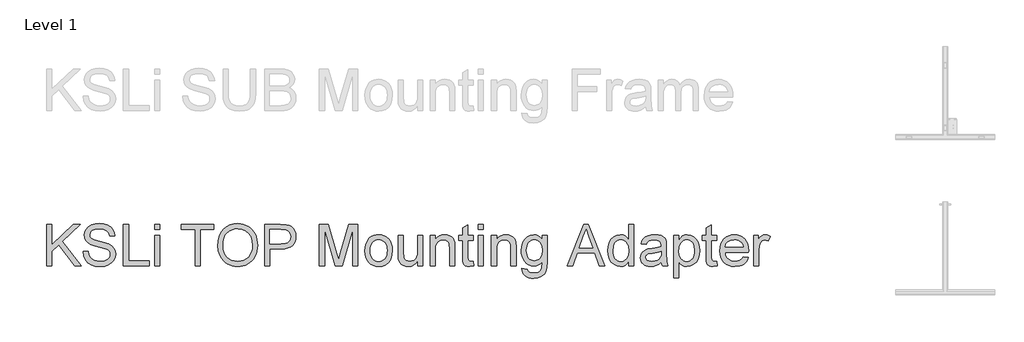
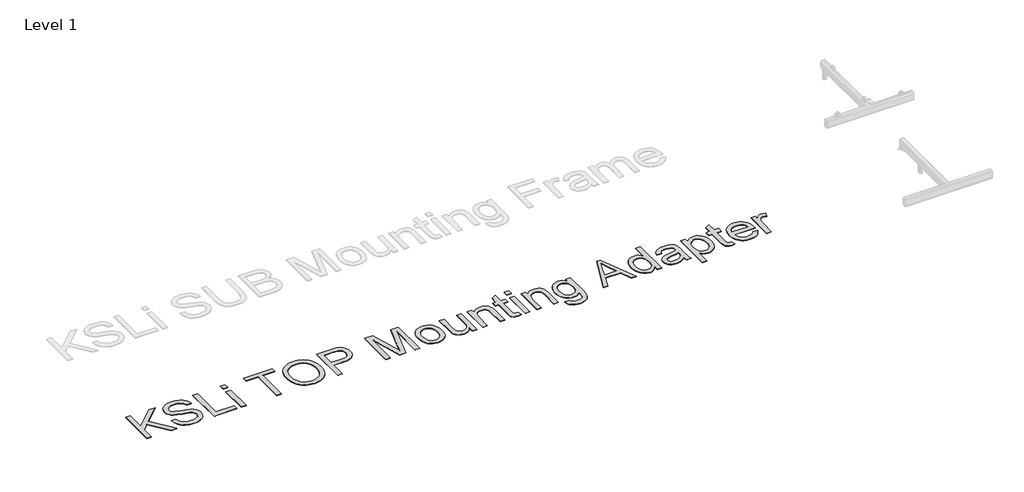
# One storey, part 32 of 52: 1 proxy.
"""IFC4 building model written with IfcOpenShell, lengths in millimetres."""

from ifc_helpers import new_model, si_unit, origin, origin_with_axes, place, context, project, spatial, polyline, outline, extrude, element, save

model = new_model("IFC4")

# Units and contexts
model_context = context("Model", 3, world=origin())
ifc_project = project(units=[si_unit("LENGTHUNIT", "METRE", prefix="MILLI")], contexts=[model_context])

# Site, building, storey
site = spatial("IfcSite", under=ifc_project)
building = spatial("IfcBuilding", under=site)
storey = spatial("IfcBuildingStorey", under=building, Name="Level 1", Elevation=0.0)

# Proxy
placement = place(None, origin())
element("IfcBuildingElementProxy", 1, Name="400mm Arial", ObjectType="400mm Arial", at=placement, inside=storey, context=model_context, shape_type="SweptSolid", body=[
    extrude(outline(polyline([(8048.9284942, -55256.6859046), (8048.9284942, -54854.860664), (8099.1566493, -54854.860664), (8099.1566493, -55051.554904), (8305.1705666, -54854.860664), (8375.4115022, -54854.860664), (8202.4579136, -55020.0642053), (8381.6900216, -55256.6859046), (8320.2782539, -55256.6859046), (8166.8469364, -55054.0074507), (8099.1566493, -55118.5584781), (8099.1566493, -55256.6859046), (8048.9284942, -55256.6859046)])), origin_with_axes(), (0.0, 0.0, 1.0), 5.0),
    extrude(outline(polyline([(8400.5255798, -55118.5584781), (8450.7537348, -55118.5584781), (8456.5172194, -55146.4316706), (8466.9405426, -55168.8356841), (8483.2009268, -55186.6166472), (8506.4755944, -55200.6206885), (8534.9251353, -55209.7073738), (8566.7101397, -55212.7362689), (8594.6936968, -55210.4431378), (8619.1946377, -55203.5637445), (8639.0480027, -55192.6744374), (8653.0888322, -55178.3515651), (8661.4397535, -55161.9072399), (8664.2233939, -55144.6535743), (8662.1387293, -55127.8413671), (8655.8847354, -55113.3100283), (8643.1805438, -55100.9124051), (8621.7452862, -55090.5013446), (8548.6103456, -55071.3224299), (8500.6017452, -55058.6305011), (8469.8835986, -55046.5517089), (8444.8798857, -55029.6536626), (8427.1602362, -55009.1748982), (8416.602023, -54985.5568741), (8413.0826185, -54959.2410487), (8417.4358888, -54929.8227518), (8430.4956996, -54902.3910177), (8451.9186945, -54879.1408756), (8481.3615168, -54862.2673548), (8516.7027138, -54852.0034471), (8555.8208327, -54848.5821446), (8598.2008385, -54852.1628627), (8635.2833436, -54862.9050169), (8665.7439728, -54880.5878782), (8688.2583509, -54904.9907172), (8702.5076469, -54934.592955), (8708.1730296, -54967.8740129), (8657.9448745, -54967.8740129), (8648.7232992, -54937.903893), (8640.3601152, -54926.04583), (8629.4953336, -54916.2724317), (8599.4516373, -54903.1758327), (8557.78287, -54898.8102996), (8515.133084, -54903.1267817), (8498.8297802, -54908.5223843), (8485.8742027, -54916.076228), (8468.9516309, -54935.1325153), (8463.3107736, -54957.7695207), (8467.3084246, -54977.0710628), (8479.3013777, -54992.595683), (8507.6528168, -55006.4770969), (8561.3145371, -55020.6528165), (8616.6930401, -55034.1172975), (8650.1948272, -55045.8649959), (8678.8283091, -55064.0874173), (8698.8043015, -55086.57727), (8710.5397371, -55113.0892991), (8714.451549, -55143.37825), (8709.9511259, -55174.3416513), (8696.4498567, -55203.4656426), (8674.4995643, -55228.5306692), (8644.6520718, -55247.3171764), (8608.7590518, -55259.0526121), (8568.672177, -55262.9644239), (8519.4618288, -55258.7460437), (8478.9580211, -55246.0909031), (8446.6947702, -55224.9499511), (8422.206092, -55195.2741368), (8406.4852681, -55159.1235994), (8400.5255798, -55118.5584781)])), origin_with_axes(), (0.0, 0.0, 1.0), 5.0),
    extrude(outline(polyline([(8789.7937816, -55256.6859046), (8789.7937816, -54854.860664), (8840.0219367, -54854.860664), (8840.0219367, -55206.4577495), (9040.934557, -55206.4577495), (9040.934557, -55256.6859046), (8789.7937816, -55256.6859046)])), origin_with_axes(), (0.0, 0.0, 1.0), 5.0),
    extrude(outline(polyline([(9091.162712, -54905.088819), (9091.162712, -54854.860664), (9141.3908671, -54854.860664), (9141.3908671, -54905.088819), (9091.162712, -54905.088819)])), origin_with_axes(), (0.0, 0.0, 1.0), 5.0),
    extrude(outline(polyline([(9091.162712, -55256.6859046), (9091.162712, -54961.5954935), (9141.3908671, -54961.5954935), (9141.3908671, -55256.6859046), (9091.162712, -55256.6859046)])), origin_with_axes(), (0.0, 0.0, 1.0), 5.0),
    extrude(outline(polyline([(9480.4309139, -55256.6859046), (9480.4309139, -54905.088819), (9348.5820068, -54905.088819), (9348.5820068, -54854.860664), (9662.507976, -54854.860664), (9662.507976, -54905.088819), (9530.659069, -54905.088819), (9530.659069, -55256.6859046), (9480.4309139, -55256.6859046)])), origin_with_axes(), (0.0, 0.0, 1.0), 5.0),
    extrude(outline(polyline([(9700.1790923, -55061.070785), (9703.5268185, -55013.93897), (9713.569997, -54972.2150204), (9730.3086277, -54935.8989361), (9753.7427108, -54904.9907172), (9782.4681633, -54880.3119667), (9815.0809022, -54862.6842877), (9851.5809274, -54852.1076804), (9891.9682391, -54848.5821446), (9919.0014344, -54850.2376136), (9944.6734663, -54855.2040205), (9968.9843348, -54863.4813654), (9991.93404, -54875.0696482), (10012.8787882, -54889.6193811), (10031.1747861, -54906.7810762), (10046.8220337, -54926.5547335), (10059.8205308, -54948.9403529), (10070.0353875, -54973.429031), (10077.3317138, -54999.5118645), (10083.1687748, -55056.4599973), (10081.6328674, -55086.1174175), (10077.0251455, -55114.1684196), (10069.3456088, -55140.6130037), (10058.5942575, -55165.4511698), (10045.0255432, -55188.0268615), (10028.8939178, -55207.6840228), (10010.199381, -55224.4226536), (9988.9419331, -55238.2427539), (9965.9585054, -55249.0584845), (9942.0860296, -55256.7840064), (9917.3245057, -55261.4193196), (9891.6739336, -55262.9644239), (9864.168623, -55261.2568383), (9838.159366, -55256.1340816), (9813.6461624, -55247.5961536), (9790.6290122, -55235.6430544), (9769.7087894, -55220.7377023), (9751.4863679, -55203.3430153), (9735.9617477, -55183.4589934), (9723.1349288, -55161.0856367), (9705.9180515, -55112.4638997), (9700.1790923, -55061.070785)]), holes=[polyline([(9750.4072474, -55061.5612943), (9752.918042, -55094.8607462), (9760.4504259, -55124.4200646), (9773.004399, -55150.2392493), (9790.5799613, -55172.3183003), (9811.9447081, -55190.0011616), (9835.8662349, -55202.6317767), (9862.3445415, -55210.2101458), (9891.379628, -55212.7362689), (9920.9113551, -55210.1856204), (9947.7023614, -55202.5336749), (9971.7526469, -55189.7804324), (9993.0622114, -55171.9258929), (10010.509015, -55149.3808579), (10022.9710176, -55122.5561291), (10030.4482192, -55091.4517064), (10032.9406197, -55056.0675899), (10028.6731886, -55011.6029194), (10015.8708951, -54973.1715136), (9994.8648332, -54941.7421285), (9965.9860966, -54918.2835199), (9931.1476716, -54903.6786047), (9892.2625447, -54898.8102996), (9864.2360681, -54901.1555474), (9838.2329424, -54908.1912905), (9814.2531677, -54919.9175291), (9792.2967439, -54936.3342632), (9773.9700892, -54958.2324389), (9760.8796215, -54986.4030027), (9753.0253409, -55020.8459545), (9750.4072474, -55061.5612943)])]), origin_with_axes(), (0.0, 0.0, 1.0), 5.0),
    extrude(outline(polyline([(10152.232488, -55256.6859046), (10152.232488, -54854.860664), (10301.1511197, -54854.860664), (10361.1894613, -54858.6866367), (10387.9590078, -54865.8358101), (10409.9951393, -54877.4731439), (10427.7393142, -54894.1259356), (10441.6329909, -54916.3214826), (10450.6093116, -54942.5024179), (10453.6014185, -54971.1113744), (10451.5811332, -54995.7778622), (10445.5202773, -55018.4700499), (10435.4188508, -55039.1879376), (10421.2768538, -55057.9315253), (10401.8618815, -55073.4684082), (10375.9415293, -55084.5661817), (10343.5157971, -55091.2248459), (10304.5846849, -55093.4444006), (10202.4606431, -55093.4444006), (10202.4606431, -55256.6859046), (10152.232488, -55256.6859046)]), holes=[polyline([(10202.4606431, -55043.2162455), (10307.5277409, -55043.2162455), (10352.0659878, -55038.6054578), (10368.6697285, -55032.8419732), (10381.4965474, -55024.7730948), (10391.0676106, -55014.6134204), (10397.9040844, -55002.5775478), (10403.3732634, -54972.877208), (10400.1481646, -54950.313779), (10390.4728681, -54931.2820171), (10375.5491218, -54916.9591447), (10356.5786736, -54908.5223843), (10306.3505185, -54905.088819), (10202.4606431, -54905.088819), (10202.4606431, -55043.2162455)])]), origin_with_axes(), (0.0, 0.0, 1.0), 5.0),
    extrude(outline(polyline([(10679.6281163, -55256.6859046), (10679.6281163, -54854.860664), (10766.0558597, -54854.860664), (10848.2652229, -55138.0807493), (10864.8444381, -55197.2361741), (10882.7970795, -55133.175656), (10963.6330166, -54854.860664), (11050.06076, -54854.860664), (11050.06076, -55256.6859046), (10999.8326049, -55256.6859046), (10999.8326049, -54905.088819), (10898.8857854, -55256.6859046), (10830.8030908, -55256.6859046), (10729.8562714, -54905.088819), (10729.8562714, -55256.6859046), (10679.6281163, -55256.6859046)])), origin_with_axes(), (0.0, 0.0, 1.0), 5.0),
    extrude(outline(polyline([(11119.1244732, -55109.140699), (11121.8406686, -55070.9238911), (11129.9892548, -55037.9923212), (11143.5702318, -55010.3459892), (11162.5835996, -54987.9848953), (11181.725726, -54973.6926798), (11202.8544153, -54963.4839544), (11225.9696673, -54957.3587192), (11251.0714821, -54955.3169741), (11278.7821934, -54957.8032433), (11303.838023, -54965.2620507), (11326.2389708, -54977.6933965), (11345.9850369, -54995.0972805), (11362.101334, -55016.8850917), (11373.6129747, -55042.4682188), (11380.5199592, -55071.8466618), (11382.8222873, -55105.0204207), (11378.7510599, -55155.7636105), (11366.5373777, -55194.39122), (11346.5368599, -55223.3190076), (11319.1051258, -55244.9627316), (11286.5230437, -55258.4640009), (11251.0714821, -55262.9644239), (11222.9561006, -55260.4873518), (11197.6672792, -55253.0561355), (11175.2050177, -55240.670775), (11155.5693162, -55223.3312703), (11139.6246974, -55201.331927), (11128.2356839, -55174.9670507), (11121.4022759, -55144.2366414), (11119.1244732, -55109.140699)]), holes=[polyline([(11169.3526283, -55109.0425972), (11170.8057622, -55133.4055823), (11175.1651638, -55154.500549), (11182.4308332, -55172.3274974), (11192.6027704, -55186.8864273), (11204.9758681, -55198.195733), (11218.8450194, -55206.2738085), (11234.210224, -55211.1206538), (11251.0714821, -55212.7362689), (11267.8469011, -55211.1114567), (11283.1507921, -55206.2370203), (11296.9831551, -55198.1129596), (11309.3439902, -55186.7392745), (11319.5159273, -55172.0362575), (11326.7815967, -55153.9242006), (11331.1409984, -55132.4031039), (11332.5941323, -55107.4729673), (11331.1318013, -55083.8825344), (11326.7448085, -55063.3393906), (11319.4331539, -55045.8435361), (11309.1968374, -55031.3949707), (11296.7900171, -55020.085665), (11282.9668511, -55012.0075896), (11267.7273395, -55007.1607443), (11251.0714821, -55005.5451292), (11234.210224, -55007.1546129), (11218.8450194, -55011.9830641), (11204.9758681, -55020.0304827), (11192.6027704, -55031.2968688), (11182.4308332, -55045.8128792), (11175.1651638, -55063.6091708), (11170.8057622, -55084.6857434), (11169.3526283, -55109.0425972)])]), origin_with_axes(), (0.0, 0.0, 1.0), 5.0),
    extrude(outline(polyline([(11627.6845433, -55256.6859046), (11627.6845433, -55205.9672402), (11609.5111728, -55230.9035081), (11588.3456953, -55248.715128), (11564.188111, -55259.4021), (11537.0384197, -55262.9644239), (11512.574267, -55260.4628264), (11489.8023715, -55252.9580337), (11470.6970333, -55241.6763192), (11457.2325522, -55227.8439561), (11448.1703924, -55211.0440117), (11442.2720178, -55190.8595529), (11439.3289618, -55144.163065), (11439.3289618, -54961.5954935), (11489.5571169, -54961.5954935), (11489.5571169, -55120.5205154), (11492.5982747, -55171.7296891), (11499.9191264, -55188.8116764), (11512.4639024, -55201.7979109), (11529.3987369, -55210.0016794), (11549.8897641, -55212.7362689), (11571.5580136, -55209.9403657), (11591.8283115, -55201.5526562), (11608.5424168, -55188.3456926), (11619.5420885, -55171.092027), (11625.6489296, -55147.4617402), (11627.6845433, -55115.1249128), (11627.6845433, -54961.5954935), (11677.9126984, -54961.5954935), (11677.9126984, -55256.6859046), (11627.6845433, -55256.6859046)])), origin_with_axes(), (0.0, 0.0, 1.0), 5.0),
    extrude(outline(polyline([(11746.9764116, -55256.6859046), (11746.9764116, -54961.5954935), (11797.2045667, -54961.5954935), (11797.2045667, -55002.798277), (11814.654436, -54982.025207), (11835.611447, -54967.1872998), (11860.0755997, -54958.2845555), (11888.046894, -54955.3169741), (11912.8053523, -54957.7082071), (11935.479146, -54964.881906), (11954.3882805, -54975.9428913), (11967.8527615, -54989.9959835), (11976.9884977, -55007.0043944), (11982.9113979, -55026.9313358), (11985.5601482, -55075.4917592), (11985.5601482, -55256.6859046), (11935.3319932, -55256.6859046), (11935.3319932, -55082.2607879), (11933.8849906, -55056.2883191), (11929.5439831, -55037.8206429), (11921.5364183, -55024.5891538), (11909.0897442, -55014.3252461), (11893.1359283, -55007.7401584), (11874.6069385, -55005.5451292), (11845.1886416, -55010.4747479), (11820.1113523, -55025.2636041), (11810.0896336, -55037.3362649), (11802.9312631, -55053.8357724), (11798.6362408, -55074.7621266), (11797.2045667, -55100.1153274), (11797.2045667, -55256.6859046), (11746.9764116, -55256.6859046)])), origin_with_axes(), (0.0, 0.0, 1.0), 5.0),
    extrude(outline(polyline([(12161.358691, -55214.796408), (12167.6372104, -55258.1574325), (12130.0641959, -55262.9644239), (12105.9556625, -55260.8797593), (12087.9784957, -55254.6257654), (12075.2743041, -55244.9872571), (12066.9846965, -55232.7490494), (12062.4229598, -55211.7307247), (12060.9023808, -55175.7518656), (12060.9023808, -55011.8236486), (12023.2312645, -55011.8236486), (12023.2312645, -54961.5954935), (12060.9023808, -54961.5954935), (12060.9023808, -54889.8830299), (12111.1305359, -54860.3543684), (12111.1305359, -54961.5954935), (12161.358691, -54961.5954935), (12161.358691, -55011.8236486), (12111.1305359, -55011.8236486), (12111.1305359, -55174.2803376), (12113.7792863, -55200.1792301), (12122.3631995, -55209.3517545), (12139.481975, -55212.7362689), (12161.358691, -55214.796408)])), origin_with_axes(), (0.0, 0.0, 1.0), 5.0),
    extrude(outline(polyline([(12211.5868461, -55256.6859046), (12211.5868461, -54961.5954935), (12261.8150011, -54961.5954935), (12261.8150011, -55256.6859046), (12211.5868461, -55256.6859046)])), origin_with_axes(), (0.0, 0.0, 1.0), 5.0),
    extrude(outline(polyline([(12211.5868461, -54905.088819), (12211.5868461, -54854.860664), (12261.8150011, -54854.860664), (12261.8150011, -54905.088819), (12211.5868461, -54905.088819)])), origin_with_axes(), (0.0, 0.0, 1.0), 5.0),
    extrude(outline(polyline([(12337.1572338, -55256.6859046), (12337.1572338, -54961.5954935), (12387.3853888, -54961.5954935), (12387.3853888, -55002.798277), (12404.8352581, -54982.025207), (12425.7922691, -54967.1872998), (12450.2564218, -54958.2845555), (12478.2277162, -54955.3169741), (12502.9861745, -54957.7082071), (12525.6599681, -54964.881906), (12544.5691026, -54975.9428913), (12558.0335837, -54989.9959835), (12567.1693199, -55007.0043944), (12573.09222, -55026.9313358), (12575.7409704, -55075.4917592), (12575.7409704, -55256.6859046), (12525.5128153, -55256.6859046), (12525.5128153, -55082.2607879), (12524.0658128, -55056.2883191), (12519.7248052, -55037.8206429), (12511.7172405, -55024.5891538), (12499.2705663, -55014.3252461), (12483.3167504, -55007.7401584), (12464.7877606, -55005.5451292), (12435.3694637, -55010.4747479), (12410.2921744, -55025.2636041), (12400.2704557, -55037.3362649), (12393.1120852, -55053.8357724), (12388.8170629, -55074.7621266), (12387.3853888, -55100.1153274), (12387.3853888, -55256.6859046), (12337.1572338, -55256.6859046)])), origin_with_axes(), (0.0, 0.0, 1.0), 5.0),
    extrude(outline(polyline([(12632.2476448, -55281.7999821), (12682.4757999, -55288.0785015), (12688.0185553, -55303.7747999), (12698.7607096, -55314.5660051), (12719.8771361, -55322.9537146), (12747.5173366, -55325.7496178), (12776.9969472, -55322.5858326), (12798.9227141, -55313.0944772), (12814.1285032, -55297.888688), (12823.4481804, -55277.5816019), (12826.8817457, -55219.0147883), (12810.1676404, -55235.4959016), (12791.5160233, -55247.2681255), (12770.9268943, -55254.3314598), (12748.4002534, -55256.6859046), (12720.8612204, -55253.9451837), (12696.6147312, -55245.7230211), (12675.6607859, -55232.0194168), (12657.9993845, -55212.8343707), (12643.9861462, -55189.8172206), (12633.9766902, -55164.6173039), (12627.9710166, -55137.2346207), (12625.9691254, -55107.669171), (12629.5621063, -55067.1163124), (12640.3410487, -55029.8253409), (12657.9258081, -54998.2242775), (12681.9362396, -54974.7411435), (12711.5507402, -54960.1730164), (12745.9477068, -54955.3169741), (12769.4369722, -54958.0638263), (12790.7557338, -54966.304383), (12809.9039917, -54980.0386442), (12826.8817457, -54999.2666098), (12826.8817457, -54961.5954935), (12877.1099008, -54961.5954935), (12877.1099008, -55216.3660379), (12873.6763355, -55275.1903689), (12863.3756397, -55313.928343), (12845.6314648, -55339.618769), (12819.8674624, -55359.3004557), (12786.6477182, -55371.8084436), (12746.536318, -55375.9777729), (12721.9280782, -55374.5093106), (12699.8030419, -55370.1039237), (12680.161209, -55362.7616122), (12663.0025796, -55352.4823761), (12649.1426255, -55339.2539527), (12639.3968183, -55323.0640792), (12633.7651581, -55303.9127557), (12632.2476448, -55281.7999821)]), holes=[polyline([(12676.1972805, -55104.2356058), (12681.5560949, -55150.3066943), (12688.2546129, -55167.9435703), (12697.6325381, -55181.9813341), (12709.0338143, -55192.6897658), (12721.8023852, -55200.3386456), (12735.9382508, -55204.9279735), (12751.4414113, -55206.4577495), (12766.7912875, -55204.9371706), (12780.8597081, -55200.3754338), (12793.6466732, -55192.7725393), (12805.1521826, -55182.1284869), (12814.6588664, -55168.2286788), (12821.4493549, -55150.8585173), (12826.8817457, -55105.7071337), (12821.2899394, -55062.1621682), (12814.3001815, -55044.9606193), (12804.5145204, -55030.8063595), (12792.7606907, -55019.7545712), (12779.8664268, -55011.8604368), (12765.8317286, -55007.1239561), (12750.6565963, -55005.5451292), (12735.7359157, -55007.0994306), (12721.9740634, -55011.7623349), (12697.9268437, -55030.4139521), (12688.4201598, -55044.353614), (12681.6296713, -55061.3037769), (12676.1972805, -55104.2356058)])]), origin_with_axes(), (0.0, 0.0, 1.0), 5.0),
    extrude(outline(polyline([(13068.8990476, -55256.6859046), (13229.2955975, -54854.860664), (13272.0680108, -54854.860664), (13432.4645607, -55256.6859046), (13379.3914516, -55256.6859046), (13333.3816767, -55131.1155169), (13167.8838298, -55131.1155169), (13121.9721568, -55256.6859046), (13068.8990476, -55256.6859046)]), holes=[polyline([(13186.3269805, -55080.8873618), (13315.0366279, -55080.8873618), (13278.8370395, -54982.0987834), (13250.6818042, -54905.088819), (13225.6658285, -54973.4658192), (13186.3269805, -55080.8873618)])]), origin_with_axes(), (0.0, 0.0, 1.0), 5.0),
    extrude(outline(polyline([(13661.9248239, -55256.6859046), (13661.9248239, -55209.3027036), (13646.8968444, -55232.7797062), (13628.692817, -55249.5489939), (13607.3127417, -55259.6105664), (13582.7566185, -55262.9644239), (13550.2849011, -55258.1083816), (13520.5600358, -55243.5402546), (13495.3969074, -55220.2778498), (13476.6104002, -55189.338974), (13464.9117527, -55151.974426), (13461.0122036, -55109.4350046), (13464.6051844, -55067.4228808), (13475.3841268, -55029.4819843), (13493.3367682, -54997.7705564), (13518.4508457, -54974.4468379), (13548.8256358, -54960.09944), (13582.5604148, -54955.3169741), (13607.134932, -54958.7382767), (13628.8644952, -54969.0021843), (13647.2831204, -54984.735271), (13661.9248239, -55004.5641105), (13661.9248239, -54854.860664), (13712.1529789, -54854.860664), (13712.1529789, -55256.6859046), (13661.9248239, -55256.6859046)]), holes=[polyline([(13511.2403586, -55109.2388009), (13512.6567043, -55133.5956547), (13516.9057414, -55154.6722273), (13523.9874698, -55172.4685188), (13533.9018895, -55186.9845292), (13558.5990341, -55206.298334), (13572.4743167, -55211.1267851), (13587.3674062, -55212.7362689), (13602.3310063, -55211.2003615), (13616.1235155, -55206.5926395), (13640.1952607, -55188.1617516), (13649.7019446, -55174.2527465), (13656.4924331, -55157.1002485), (13661.9248239, -55113.0647736), (13656.3943312, -55064.9212832), (13649.4812154, -55046.386162), (13639.8028532, -55031.5421235), (13628.1011401, -55020.1684385), (13615.1179713, -55012.0443778), (13600.853347, -55007.1699413), (13585.307267, -55005.5451292), (13570.119872, -55007.105562), (13556.2445894, -55011.7868604), (13543.6814192, -55019.5890243), (13532.4303616, -55030.5120539), (13523.1597353, -55044.7950724), (13516.5378594, -55062.677203), (13511.2403586, -55109.2388009)])]), origin_with_axes(), (0.0, 0.0, 1.0), 5.0),
    extrude(outline(polyline([(13975.8507931, -55219.0147883), (13951.8526243, -55239.5916545), (13927.1432169, -55253.0561355), (13901.1584853, -55260.4873518), (13873.3343438, -55262.9644239), (13850.9701841, -55261.4745019), (13831.3590081, -55257.0047356), (13814.5008157, -55249.5551252), (13800.3956068, -55239.1256707), (13789.2579794, -55226.3785595), (13781.3025313, -55211.9759794), (13776.5292624, -55195.9179303), (13774.9381728, -55178.2044123), (13777.3416685, -55157.3822913), (13784.5521556, -55138.4731568), (13795.6744546, -55122.286349), (13809.8133859, -55109.6312084), (13826.4293894, -55100.0662765), (13844.9829047, -55093.150095), (13888.442031, -55085.5962513), (13939.7983575, -55077.6500002), (13975.5564875, -55068.330323), (13975.8507931, -55057.1467104), (13972.3927023, -55034.7304341), (13962.0184301, -55020.0642053), (13938.8173389, -55009.1748982), (13906.4927742, -55005.5451292), (13876.5717053, -55007.9608876), (13855.676008, -55015.2081629), (13841.426712, -55028.6113303), (13831.4448472, -55049.4947649), (13781.2166922, -55043.2162455), (13789.9354954, -55015.7477232), (13802.9462553, -54994.1653128), (13821.4629824, -54977.6596739), (13846.6996873, -54965.4214662), (13877.5649867, -54957.8430971), (13912.9674974, -54955.3169741), (13946.9230055, -54957.5487915), (13973.8397048, -54964.2442439), (13994.1345282, -54974.3119478), (14008.2244086, -54986.6605201), (14017.5686113, -55001.9276229), (14023.6264015, -55020.7509183), (14026.0789481, -55064.700554), (14026.0789481, -55127.1914423), (14028.6295966, -55214.4530515), (14038.6359869, -55256.6859046), (13988.4078318, -55256.6859046), (13980.3634789, -55239.2237725), (13975.8507931, -55219.0147883)]), holes=[polyline([(13975.8507931, -55118.5584781), (13942.1037514, -55126.9216621), (13894.8186523, -55133.960471), (13851.6047806, -55142.1029258), (13840.3598543, -55147.6702067), (13832.0334584, -55155.3466776), (13826.8831105, -55164.5437275), (13825.1663278, -55174.6727451), (13828.9064615, -55189.6087541), (13840.1268623, -55201.8469618), (13858.5822757, -55210.0139421), (13884.0274471, -55212.7362689), (13911.0054601, -55209.7318992), (13934.8442133, -55200.7187904), (13954.1702808, -55187.4382503), (13967.6102364, -55171.6315873), (13973.5699247, -55155.3466776), (13975.5564875, -55132.7832486), (13975.8507931, -55118.5584781)])]), origin_with_axes(), (0.0, 0.0, 1.0), 5.0),
    extrude(outline(polyline([(14095.1426614, -55369.6992535), (14095.1426614, -54961.5954935), (14145.3708165, -54961.5954935), (14145.3708165, -55010.8426299), (14161.753828, -54986.5501555), (14180.0988768, -54969.1983881), (14201.4850834, -54958.7873276), (14226.9915684, -54955.3169741), (14260.9593393, -54960.1730164), (14290.6596791, -54974.7411435), (14314.8417889, -54998.1384383), (14332.25487, -55029.4819843), (14342.7762951, -55066.4909131), (14346.2834368, -55106.8843561), (14342.3225739, -55149.8407104), (14330.4399855, -55188.2598535), (14311.0158161, -55220.1920106), (14284.4302106, -55243.6874074), (14253.4668094, -55258.1451698), (14220.9092528, -55262.9644239), (14197.8185262, -55259.7393251), (14177.2048718, -55250.0640286), (14159.5587987, -55235.4591134), (14145.3708165, -55217.4451584), (14145.3708165, -55369.6992535), (14095.1426614, -55369.6992535)]), holes=[polyline([(14145.3708165, -55111.4951438), (14150.8032072, -55156.5239), (14157.5936957, -55173.9615066), (14167.1003796, -55188.0145988), (14191.1475994, -55206.5558513), (14204.9094517, -55211.1911645), (14219.8301323, -55212.7362689), (14234.9654107, -55211.1359822), (14248.978649, -55206.3351222), (14261.8698473, -55198.3336888), (14273.6390054, -55187.131682), (14283.4461263, -55172.5696864), (14290.4512126, -55154.4882863), (14294.6542644, -55132.8874818), (14296.0552817, -55107.7672729), (14290.5861027, -55062.9837714), (14283.7496289, -55045.4112747), (14274.1785657, -55031.0516142), (14250.1681341, -55011.9217504), (14236.5626317, -55007.1392845), (14221.8902714, -55005.5451292), (14207.2638965, -55007.240452), (14193.5020442, -55012.3264206), (14168.5719076, -55032.670295), (14158.4214302, -55047.7687852), (14151.1710892, -55065.9390901), (14146.8208846, -55087.1812096), (14145.3708165, -55111.4951438)])]), origin_with_axes(), (0.0, 0.0, 1.0), 5.0),
    extrude(outline(polyline([(14509.5249407, -55214.796408), (14515.8034601, -55258.1574325), (14478.2304457, -55262.9644239), (14454.1219123, -55260.8797593), (14436.1447454, -55254.6257654), (14423.4405539, -55244.9872571), (14415.1509462, -55232.7490494), (14410.5892095, -55211.7307247), (14409.0686306, -55175.7518656), (14409.0686306, -55011.8236486), (14371.3975143, -55011.8236486), (14371.3975143, -54961.5954935), (14409.0686306, -54961.5954935), (14409.0686306, -54889.8830299), (14459.2967857, -54860.3543684), (14459.2967857, -54961.5954935), (14509.5249407, -54961.5954935), (14509.5249407, -55011.8236486), (14459.2967857, -55011.8236486), (14459.2967857, -55174.2803376), (14461.945536, -55200.1792301), (14470.5294493, -55209.3517545), (14487.6482248, -55212.7362689), (14509.5249407, -55214.796408)])), origin_with_axes(), (0.0, 0.0, 1.0), 5.0),
    extrude(outline(polyline([(14766.3556243, -55168.7866332), (14815.6027607, -55175.0651526), (14808.0519828, -55194.7897589), (14797.8585858, -55212.1721831), (14785.0225699, -55227.2124254), (14769.5439349, -55239.9104856), (14751.5820965, -55249.9965836), (14731.2964702, -55257.2009394), (14683.7538537, -55262.9644239), (14652.5881173, -55260.4781548), (14624.819158, -55253.0193473), (14600.4469759, -55240.5880016), (14579.4715708, -55223.1841175), (14562.6041813, -55201.2920731), (14550.5560459, -55175.3962464), (14543.3271647, -55145.4966372), (14540.9175377, -55111.5932457), (14543.3516902, -55076.5402229), (14550.6541478, -55045.6442667), (14562.8249105, -55018.905377), (14579.8639782, -54996.3235538), (14600.784201, -54978.3831752), (14624.5984288, -54965.568619), (14651.3066617, -54957.8798853), (14680.9088996, -54955.3169741), (14709.5577099, -54957.873754), (14735.4657994, -54965.5440936), (14758.6331681, -54978.3279929), (14779.0598159, -54996.225452), (14795.7340673, -55018.7582242), (14807.6442469, -55045.4480629), (14814.7903547, -55076.2949682), (14817.1723906, -55111.2989401), (14816.878085, -55124.8369975), (14591.1456927, -55124.8369975), (14594.0550262, -55144.8804349), (14599.8399706, -55162.4345374), (14608.5005259, -55177.4993051), (14620.0366921, -55190.074738), (14633.8108071, -55199.9891577), (14649.1852088, -55207.0708861), (14684.7348723, -55212.7362689), (14711.4676306, -55210.112044), (14733.9820087, -55202.2393693), (14752.2780066, -55188.6277354), (14766.3556243, -55168.7866332)]), holes=[polyline([(14591.1456927, -55074.6088424), (14766.9442355, -55074.6088424), (14760.1506813, -55048.0722878), (14746.8333531, -55029.0895769), (14733.1358801, -55018.788881), (14717.5499463, -55011.4312411), (14700.0755515, -55007.0166572), (14680.7126958, -55005.5451292), (14646.8552895, -55010.241756), (14618.8594697, -55024.3316364), (14599.3985122, -55046.2941915), (14591.1456927, -55074.6088424)])]), origin_with_axes(), (0.0, 0.0, 1.0), 5.0),
    extrude(outline(polyline([(14867.4005457, -55256.6859046), (14867.4005457, -54961.5954935), (14911.3501813, -54961.5954935), (14911.3501813, -55005.2508236), (14927.5860401, -54979.9405423), (14942.5465745, -54965.0290588), (14957.5561599, -54957.7449953), (14973.9391715, -54955.3169741), (14998.9551471, -54959.1919978), (15024.3635303, -54970.8170688), (15007.5881113, -55015.845825), (14989.9297755, -55008.1203031), (14972.2714397, -55005.5451292), (14957.2741171, -55008.0222013), (14943.8709497, -55015.4534176), (14933.0429563, -55027.2746924), (14925.7711556, -55042.9219399), (14919.6643144, -55070.9790734), (14917.6287007, -55101.5868554), (14917.6287007, -55256.6859046), (14867.4005457, -55256.6859046)])), origin_with_axes(), (0.0, 0.0, 1.0), 5.0),
])

save(model, "model.ifc")
